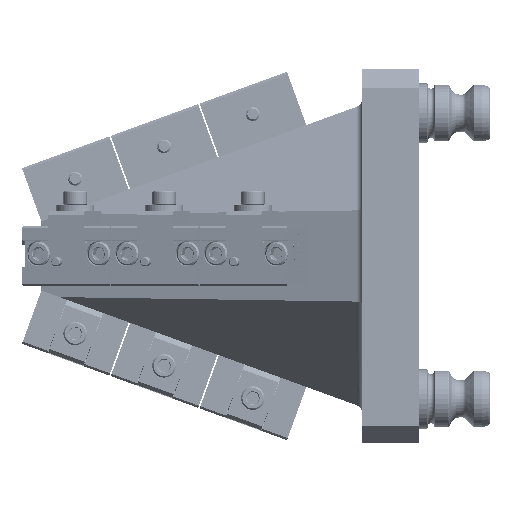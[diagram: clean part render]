
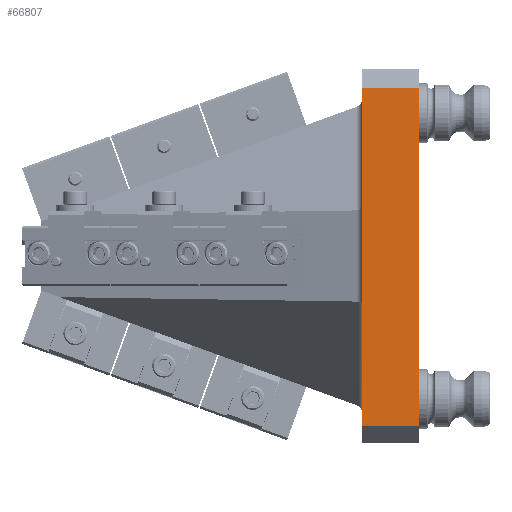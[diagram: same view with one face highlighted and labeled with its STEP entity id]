
A CAD part, left-side view. The second image highlights one B-rep face of the part: STEP entity #66807.
In plain terms, the highlighted planar face has unit normal (-1, 0, 0).
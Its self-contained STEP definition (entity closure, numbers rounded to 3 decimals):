
#2548 = DIRECTION ( 'NONE',  ( 0., 0., 1. ) ) ;
#4621 = VERTEX_POINT ( 'NONE', #7179 ) ;
#7179 = CARTESIAN_POINT ( 'NONE',  ( -62.865, 0., -57.147 ) ) ;
#7682 = ORIENTED_EDGE ( 'NONE', *, *, #81104, .F. ) ;
#9345 = CARTESIAN_POINT ( 'NONE',  ( -62.865, 127., 56.515 ) ) ;
#13800 = VECTOR ( 'NONE', #35318, 1000. ) ;
#16276 = VERTEX_POINT ( 'NONE', #53468 ) ;
#17408 = LINE ( 'NONE', #9345, #67762 ) ;
#20487 = VECTOR ( 'NONE', #77694, 1000. ) ;
#20965 = ORIENTED_EDGE ( 'NONE', *, *, #70377, .T. ) ;
#21873 = EDGE_CURVE ( 'NONE', #30365, #4621, #70126, .T. ) ;
#27475 = CARTESIAN_POINT ( 'NONE',  ( -62.865, 0., 62.865 ) ) ;
#28976 = CARTESIAN_POINT ( 'NONE',  ( -62.865, 19.05, 0. ) ) ;
#30365 = VERTEX_POINT ( 'NONE', #69817 ) ;
#30552 = LINE ( 'NONE', #28976, #13800 ) ;
#33116 = DIRECTION ( 'NONE',  ( 0., -1., 0. ) ) ;
#33963 = PLANE ( 'NONE',  #79914 ) ;
#35318 = DIRECTION ( 'NONE',  ( 0., 0., 1. ) ) ;
#36968 = EDGE_LOOP ( 'NONE', ( #50717, #20965, #7682, #76646 ) ) ;
#39826 = EDGE_CURVE ( 'NONE', #77844, #4621, #59999, .T. ) ;
#40322 = DIRECTION ( 'NONE',  ( -1., 0., 0. ) ) ;
#50717 = ORIENTED_EDGE ( 'NONE', *, *, #39826, .F. ) ;
#51369 = CARTESIAN_POINT ( 'NONE',  ( -62.865, 127., -57.147 ) ) ;
#53347 = VECTOR ( 'NONE', #33116, 1000. ) ;
#53468 = CARTESIAN_POINT ( 'NONE',  ( -62.865, 19.05, 56.515 ) ) ;
#53533 = DIRECTION ( 'NONE',  ( 0., 1., 0. ) ) ;
#59999 = LINE ( 'NONE', #27475, #20487 ) ;
#61564 = FACE_OUTER_BOUND ( 'NONE', #36968, .T. ) ;
#65408 = CARTESIAN_POINT ( 'NONE',  ( -62.865, 127., 62.865 ) ) ;
#66807 = ADVANCED_FACE ( 'NONE', ( #61564 ), #33963, .T. ) ;
#67762 = VECTOR ( 'NONE', #53533, 1000. ) ;
#69817 = CARTESIAN_POINT ( 'NONE',  ( -62.865, 19.05, -57.147 ) ) ;
#70126 = LINE ( 'NONE', #51369, #53347 ) ;
#70377 = EDGE_CURVE ( 'NONE', #77844, #16276, #17408, .T. ) ;
#72481 = CARTESIAN_POINT ( 'NONE',  ( -62.865, 0., 56.515 ) ) ;
#76646 = ORIENTED_EDGE ( 'NONE', *, *, #21873, .T. ) ;
#77694 = DIRECTION ( 'NONE',  ( 0., 0., -1. ) ) ;
#77844 = VERTEX_POINT ( 'NONE', #72481 ) ;
#79914 = AXIS2_PLACEMENT_3D ( 'NONE', #65408, #40322, #2548 ) ;
#81104 = EDGE_CURVE ( 'NONE', #30365, #16276, #30552, .T. ) ;
